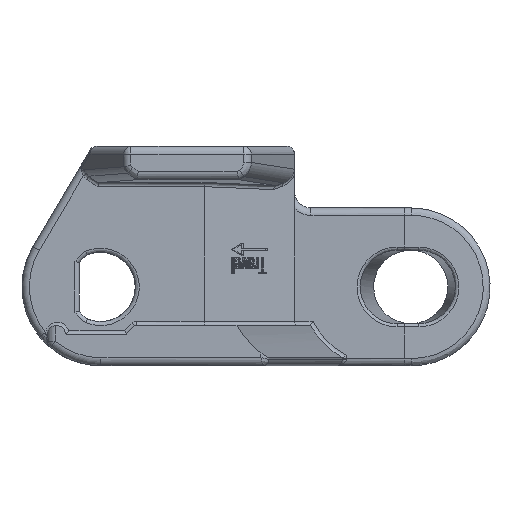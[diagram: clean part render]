
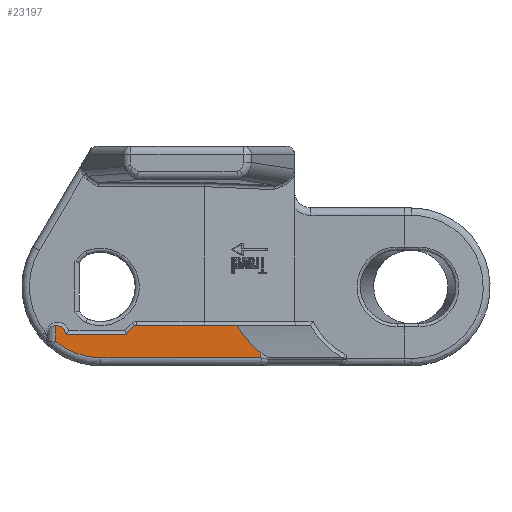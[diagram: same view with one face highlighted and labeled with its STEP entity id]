
A CAD part, front view. The second image highlights one B-rep face of the part: STEP entity #23197.
In plain terms, the highlighted planar face has unit normal (0, -1, 0).
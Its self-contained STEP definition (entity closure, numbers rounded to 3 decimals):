
#3951=DIRECTION('',(0.,0.,-1.));
#3952=VECTOR('',#3951,0.61);
#3953=CARTESIAN_POINT('',(0.604,-190.475,-8.09));
#3954=LINE('',#3953,#3952);
#3982=CARTESIAN_POINT('',(0.604,-190.475,-8.09));
#4015=CARTESIAN_POINT('',(0.604,-190.475,-8.7));
#4109=DIRECTION('',(-1.,0.,0.));
#4110=VECTOR('',#4109,19.654);
#4111=CARTESIAN_POINT('',(0.604,-190.475,-8.7));
#4112=LINE('',#4111,#4110);
#4113=CARTESIAN_POINT('',(-19.05,-190.475,0.));
#4114=DIRECTION('',(0.,1.,0.));
#4115=DIRECTION('',(0.,0.,-1.));
#4116=AXIS2_PLACEMENT_3D('',#4113,#4114,#4115);
#4133=CARTESIAN_POINT('',(-24.518,-190.475,-5.85));
#4134=DIRECTION('',(0.,1.,0.));
#4135=DIRECTION('',(-0.094,0.,0.996));
#4136=AXIS2_PLACEMENT_3D('',#4133,#4134,#4135);
#4138=CARTESIAN_POINT('',(-23.187,-190.475,-5.6));
#4139=DIRECTION('',(0.,-1.,0.));
#4140=DIRECTION('',(-0.983,0.,-0.185));
#4141=AXIS2_PLACEMENT_3D('',#4138,#4139,#4140);
#4143=DIRECTION('',(1.,0.,0.));
#4144=VECTOR('',#4143,7.15);
#4145=CARTESIAN_POINT('',(-23.187,-190.475,-5.85));
#4146=LINE('',#4145,#4144);
#4147=CARTESIAN_POINT('',(-16.037,-190.475,-5.6));
#4148=DIRECTION('',(0.,-1.,0.));
#4149=DIRECTION('',(0.,0.,-1.));
#4150=AXIS2_PLACEMENT_3D('',#4147,#4148,#4149);
#4152=DIRECTION('',(0.707,0.,0.707));
#4153=VECTOR('',#4152,1.391);
#4154=CARTESIAN_POINT('',(-15.86,-190.475,-5.777));
#4155=LINE('',#4154,#4153);
#4156=CARTESIAN_POINT('',(-14.7,-190.475,-4.97));
#4157=DIRECTION('',(0.,1.,0.));
#4158=DIRECTION('',(-0.707,0.,0.707));
#4159=AXIS2_PLACEMENT_3D('',#4156,#4157,#4158);
#4161=DIRECTION('',(-1.,0.,0.));
#4162=VECTOR('',#4161,12.362);
#4163=CARTESIAN_POINT('',(-2.338,-190.475,-4.72));
#4164=LINE('',#4163,#4162);
#4165=CARTESIAN_POINT('',(0.604,-190.475,-8.09));
#4166=CARTESIAN_POINT('',(-0.015,-190.475,-7.641));
#4167=CARTESIAN_POINT('',(-1.119,-190.475,-6.626));
#4168=CARTESIAN_POINT('',(-1.976,-190.475,-5.394));
#4169=CARTESIAN_POINT('',(-2.338,-190.475,-4.72));
#4171=DIRECTION('',(0.,0.,1.));
#4172=VECTOR('',#4171,1.931);
#4173=CARTESIAN_POINT('',(-24.622,-190.475,-6.681));
#4174=LINE('',#4173,#4172);
#15519=CARTESIAN_POINT('',(-15.86,-190.475,-5.777));
#15520=CARTESIAN_POINT('',(-14.877,-190.475,-4.793));
#15521=VERTEX_POINT('',#15519);
#15522=VERTEX_POINT('',#15520);
#15523=CARTESIAN_POINT('',(-2.338,-190.475,-4.72));
#15524=CARTESIAN_POINT('',(-14.7,-190.475,-4.72));
#15525=VERTEX_POINT('',#15523);
#15526=VERTEX_POINT('',#15524);
#15724=CARTESIAN_POINT('',(-19.05,-190.475,-8.7));
#15725=CARTESIAN_POINT('',(-24.622,-190.475,-6.681));
#15726=VERTEX_POINT('',#15724);
#15727=VERTEX_POINT('',#15725);
#15734=CARTESIAN_POINT('',(-24.622,-190.475,-4.751));
#15735=VERTEX_POINT('',#15734);
#15739=VERTEX_POINT('',#3982);
#15743=VERTEX_POINT('',#4015);
#15757=CARTESIAN_POINT('',(-23.187,-190.475,-5.85));
#15758=CARTESIAN_POINT('',(-16.037,-190.475,-5.85));
#15759=VERTEX_POINT('',#15757);
#15760=VERTEX_POINT('',#15758);
#15772=CARTESIAN_POINT('',(-23.433,-190.475,-5.646));
#15773=VERTEX_POINT('',#15772);
#23170=CARTESIAN_POINT('',(0.,-190.475,0.));
#23171=DIRECTION('',(0.,1.,0.));
#23172=DIRECTION('',(1.,0.,0.));
#23173=AXIS2_PLACEMENT_3D('',#23170,#23171,#23172);
#23174=PLANE('',#23173);
#23175=ORIENTED_EDGE('',*,*,#23150,.T.);
#23176=ORIENTED_EDGE('',*,*,#23160,.T.);
#23178=ORIENTED_EDGE('',*,*,#23177,.T.);
#23180=ORIENTED_EDGE('',*,*,#23179,.T.);
#23182=ORIENTED_EDGE('',*,*,#23181,.T.);
#23184=ORIENTED_EDGE('',*,*,#23183,.T.);
#23186=ORIENTED_EDGE('',*,*,#23185,.T.);
#23188=ORIENTED_EDGE('',*,*,#23187,.T.);
#23190=ORIENTED_EDGE('',*,*,#23189,.T.);
#23192=ORIENTED_EDGE('',*,*,#23191,.F.);
#23193=ORIENTED_EDGE('',*,*,#22808,.F.);
#23194=ORIENTED_EDGE('',*,*,#22826,.T.);
#23195=EDGE_LOOP('',(#23175,#23176,#23178,#23180,#23182,#23184,#23186,#23188,
#23190,#23192,#23193,#23194));
#23196=FACE_OUTER_BOUND('',#23195,.F.);
#4117=CIRCLE('',#4116,8.7);
#4137=CIRCLE('',#4136,1.104);
#4142=CIRCLE('',#4141,0.25);
#4151=CIRCLE('',#4150,0.25);
#4160=CIRCLE('',#4159,0.25);
#4170=B_SPLINE_CURVE_WITH_KNOTS('',3,(#4165,#4166,#4167,#4168,#4169),
.UNSPECIFIED.,.F.,.F.,(4,1,4),(0.,0.5,1.),.UNSPECIFIED.);
#22808=EDGE_CURVE('',#15739,#15525,#4170,.T.);
#22826=EDGE_CURVE('',#15739,#15743,#3954,.T.);
#23150=EDGE_CURVE('',#15743,#15726,#4112,.T.);
#23160=EDGE_CURVE('',#15726,#15727,#4117,.T.);
#23177=EDGE_CURVE('',#15727,#15735,#4174,.T.);
#23179=EDGE_CURVE('',#15735,#15773,#4137,.T.);
#23181=EDGE_CURVE('',#15773,#15759,#4142,.T.);
#23183=EDGE_CURVE('',#15759,#15760,#4146,.T.);
#23185=EDGE_CURVE('',#15760,#15521,#4151,.T.);
#23187=EDGE_CURVE('',#15521,#15522,#4155,.T.);
#23189=EDGE_CURVE('',#15522,#15526,#4160,.T.);
#23191=EDGE_CURVE('',#15525,#15526,#4164,.T.);
#23197=ADVANCED_FACE('',(#23196),#23174,.F.);
